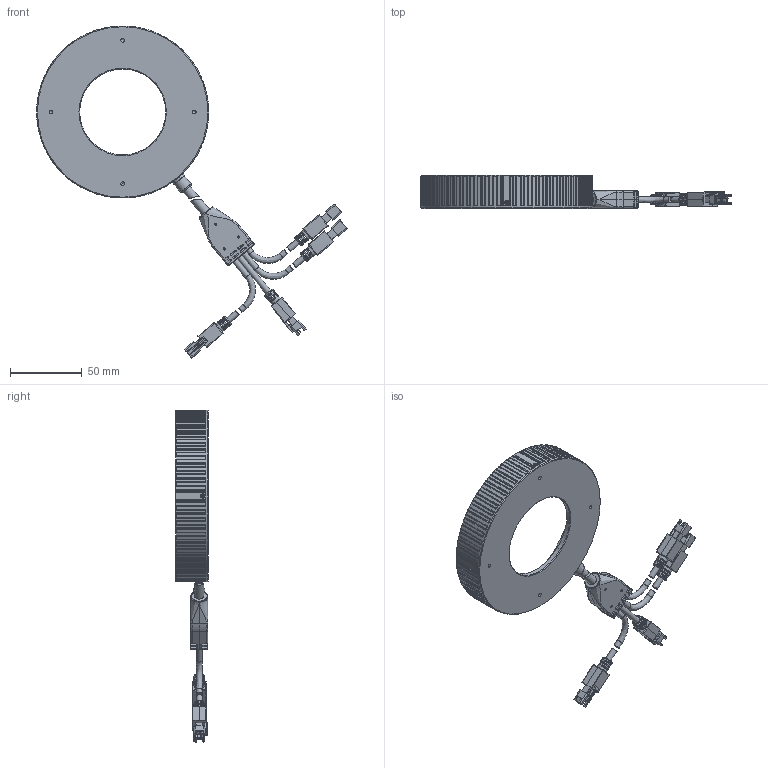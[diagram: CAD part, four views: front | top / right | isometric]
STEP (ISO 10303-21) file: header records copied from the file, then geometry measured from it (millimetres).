
FILE_DESCRIPTION (( 'STEP AP203' ), '1' );
FILE_NAME ('OPT-MSRI12030-X-V1.0尨砩芞.STEP', '2025-02-15T03:43:35', ( '' ), ( '' ), 'SwSTEP 2.0', 'SolidWorks 2016', '' );
FILE_SCHEMA (( 'CONFIG_CONTROL_DESIGN' ));
Length unit declared in the file: millimetre
Products named in the file (1): OPT-MSRI12030-X-V1.0尨砩芞
Bounding box: 216.77 x 23 x 231.68 mm (x, y, z)
Surface area: 54146.4 mm2 (no closed solid volume)
Topology: 0 solids, 25 shells, 1532 faces, 4377 edges, 2835 vertices
Faces by surface type: plane 747, cylinder 586, cone 127, bspline 58, torus 14
Full cylindrical faces by diameter (mm): 1.1 x4, 1.4 x4, 1.5 x3, 1.6 x4, 2 x4, 2.2 x4, 2.5 x4, 4.1 x10, 5 x1, 6.4 x2, 7.5 x4, 8.6 x1, 9.3 x1, 9.8 x1, 60 x1, 61.8 x1, 112 x1, 116 x1, 120 x1
Entity records: 57404 total; most frequent: CARTESIAN_POINT 20112, ORIENTED_EDGE 8063, DIRECTION 6958, EDGE_CURVE 4215, VERTEX_POINT 2784, AXIS2_PLACEMENT_3D 2374, LINE 2210, VECTOR 2210
